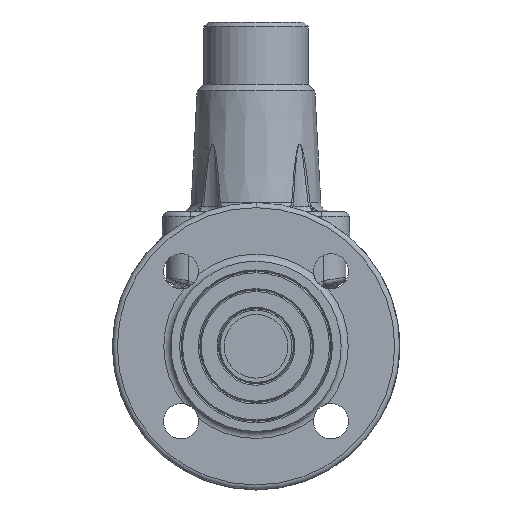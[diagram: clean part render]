
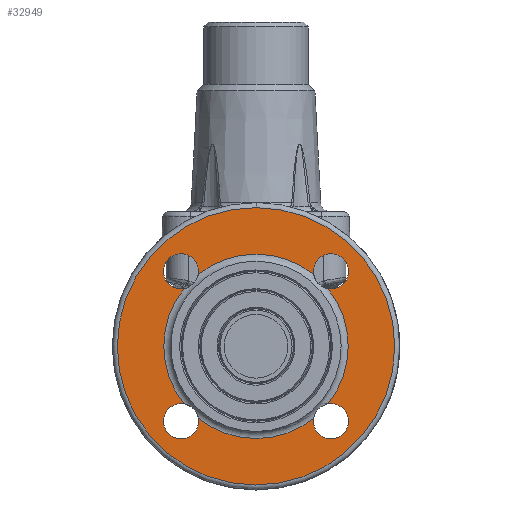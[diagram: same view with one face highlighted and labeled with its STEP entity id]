
A CAD part, left-side view. The second image highlights one B-rep face of the part: STEP entity #32949.
In plain terms, the highlighted planar face has unit normal (-1, 0, 0).
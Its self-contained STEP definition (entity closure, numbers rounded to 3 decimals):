
#32789=CARTESIAN_POINT('',(-78.,-0.343,55.499));
#32790=VERTEX_POINT('',#32789);
#32802=CARTESIAN_POINT('',(-78.,0.,55.5));
#32803=VERTEX_POINT('',#32802);
#32804=CARTESIAN_POINT('',(-78.,0.,0.));
#32805=DIRECTION('',(-1.,0.,0.));
#32806=DIRECTION('',(0.,0.,1.));
#32807=AXIS2_PLACEMENT_3D('',#32804,#32805,#32806);
#32808=CIRCLE('',#32807,55.5);
#32809=EDGE_CURVE('',#32803,#32790,#32808,.T.);
#32811=CARTESIAN_POINT('',(-78.,0.,0.));
#32812=DIRECTION('',(-1.,0.,0.));
#32813=DIRECTION('',(0.,0.,1.));
#32814=AXIS2_PLACEMENT_3D('',#32811,#32812,#32813);
#32815=CIRCLE('',#32814,55.5);
#32816=EDGE_CURVE('',#32790,#32803,#32815,.T.);
#32821=CARTESIAN_POINT('',(-78.,0.,0.));
#32822=DIRECTION('',(-1.,0.,0.));
#32823=DIRECTION('',(0.,0.,-1.));
#32824=AXIS2_PLACEMENT_3D('',#32821,#32822,#32823);
#32825=PLANE('',#32824);
#32826=ORIENTED_EDGE('',*,*,#32809,.T.);
#32827=ORIENTED_EDGE('',*,*,#32816,.T.);
#32828=EDGE_LOOP('',(#32826,#32827));
#32829=FACE_BOUND('',#32828,.T.);
#32830=CARTESIAN_POINT('',(-78.,30.,-22.95));
#32831=VERTEX_POINT('',#32830);
#32832=CARTESIAN_POINT('',(-78.,23.051,-28.813));
#32833=VERTEX_POINT('',#32832);
#32834=CARTESIAN_POINT('',(-78.,30.,-30.));
#32835=DIRECTION('',(-1.,0.,0.));
#32836=DIRECTION('',(0.,0.,1.));
#32837=AXIS2_PLACEMENT_3D('',#32834,#32835,#32836);
#32838=CIRCLE('',#32837,7.05);
#32839=EDGE_CURVE('',#32831,#32833,#32838,.T.);
#32840=ORIENTED_EDGE('',*,*,#32839,.F.);
#32841=CARTESIAN_POINT('',(-78.,28.814,-23.051));
#32842=VERTEX_POINT('',#32841);
#32843=CARTESIAN_POINT('',(-78.,30.,-30.));
#32844=DIRECTION('',(-1.,0.,0.));
#32845=DIRECTION('',(0.,0.,1.));
#32846=AXIS2_PLACEMENT_3D('',#32843,#32844,#32845);
#32847=CIRCLE('',#32846,7.05);
#32848=EDGE_CURVE('',#32842,#32831,#32847,.T.);
#32849=ORIENTED_EDGE('',*,*,#32848,.F.);
#32850=CARTESIAN_POINT('',(-78.,28.814,23.051));
#32851=VERTEX_POINT('',#32850);
#32852=CARTESIAN_POINT('',(-78.,0.,0.));
#32853=DIRECTION('',(1.,-0.,-0.));
#32854=DIRECTION('',(0.,0.,1.));
#32855=AXIS2_PLACEMENT_3D('',#32852,#32853,#32854);
#32856=CIRCLE('',#32855,36.899);
#32857=EDGE_CURVE('',#32842,#32851,#32856,.T.);
#32858=ORIENTED_EDGE('',*,*,#32857,.T.);
#32859=CARTESIAN_POINT('',(-78.,30.,37.05));
#32860=VERTEX_POINT('',#32859);
#32861=CARTESIAN_POINT('',(-78.,30.,30.));
#32862=DIRECTION('',(-1.,0.,0.));
#32863=DIRECTION('',(0.,0.,1.));
#32864=AXIS2_PLACEMENT_3D('',#32861,#32862,#32863);
#32865=CIRCLE('',#32864,7.05);
#32866=EDGE_CURVE('',#32860,#32851,#32865,.T.);
#32867=ORIENTED_EDGE('',*,*,#32866,.F.);
#32868=CARTESIAN_POINT('',(-78.,23.051,28.813));
#32869=VERTEX_POINT('',#32868);
#32870=CARTESIAN_POINT('',(-78.,30.,30.));
#32871=DIRECTION('',(-1.,0.,0.));
#32872=DIRECTION('',(0.,0.,1.));
#32873=AXIS2_PLACEMENT_3D('',#32870,#32871,#32872);
#32874=CIRCLE('',#32873,7.05);
#32875=EDGE_CURVE('',#32869,#32860,#32874,.T.);
#32876=ORIENTED_EDGE('',*,*,#32875,.F.);
#32877=CARTESIAN_POINT('',(-78.,-23.05,28.813));
#32878=VERTEX_POINT('',#32877);
#32879=CARTESIAN_POINT('',(-78.,0.,0.));
#32880=DIRECTION('',(1.,-0.,-0.));
#32881=DIRECTION('',(0.,0.,1.));
#32882=AXIS2_PLACEMENT_3D('',#32879,#32880,#32881);
#32883=CIRCLE('',#32882,36.899);
#32884=EDGE_CURVE('',#32869,#32878,#32883,.T.);
#32885=ORIENTED_EDGE('',*,*,#32884,.T.);
#32886=CARTESIAN_POINT('',(-78.,-30.,37.05));
#32887=VERTEX_POINT('',#32886);
#32888=CARTESIAN_POINT('',(-78.,-30.,30.));
#32889=DIRECTION('',(-1.,0.,0.));
#32890=DIRECTION('',(0.,0.,1.));
#32891=AXIS2_PLACEMENT_3D('',#32888,#32889,#32890);
#32892=CIRCLE('',#32891,7.05);
#32893=EDGE_CURVE('',#32887,#32878,#32892,.T.);
#32894=ORIENTED_EDGE('',*,*,#32893,.F.);
#32895=CARTESIAN_POINT('',(-78.,-28.813,23.051));
#32896=VERTEX_POINT('',#32895);
#32897=CARTESIAN_POINT('',(-78.,-30.,30.));
#32898=DIRECTION('',(-1.,0.,0.));
#32899=DIRECTION('',(0.,0.,1.));
#32900=AXIS2_PLACEMENT_3D('',#32897,#32898,#32899);
#32901=CIRCLE('',#32900,7.05);
#32902=EDGE_CURVE('',#32896,#32887,#32901,.T.);
#32903=ORIENTED_EDGE('',*,*,#32902,.F.);
#32904=CARTESIAN_POINT('',(-78.,-28.813,-23.051));
#32905=VERTEX_POINT('',#32904);
#32906=CARTESIAN_POINT('',(-78.,0.,0.));
#32907=DIRECTION('',(1.,-0.,-0.));
#32908=DIRECTION('',(0.,0.,1.));
#32909=AXIS2_PLACEMENT_3D('',#32906,#32907,#32908);
#32910=CIRCLE('',#32909,36.899);
#32911=EDGE_CURVE('',#32896,#32905,#32910,.T.);
#32912=ORIENTED_EDGE('',*,*,#32911,.T.);
#32913=CARTESIAN_POINT('',(-78.,-30.,-22.95));
#32914=VERTEX_POINT('',#32913);
#32915=CARTESIAN_POINT('',(-78.,-30.,-30.));
#32916=DIRECTION('',(-1.,0.,0.));
#32917=DIRECTION('',(0.,0.,1.));
#32918=AXIS2_PLACEMENT_3D('',#32915,#32916,#32917);
#32919=CIRCLE('',#32918,7.05);
#32920=EDGE_CURVE('',#32914,#32905,#32919,.T.);
#32921=ORIENTED_EDGE('',*,*,#32920,.F.);
#32922=CARTESIAN_POINT('',(-78.,-23.05,-28.813));
#32923=VERTEX_POINT('',#32922);
#32924=CARTESIAN_POINT('',(-78.,-30.,-30.));
#32925=DIRECTION('',(-1.,0.,0.));
#32926=DIRECTION('',(0.,0.,1.));
#32927=AXIS2_PLACEMENT_3D('',#32924,#32925,#32926);
#32928=CIRCLE('',#32927,7.05);
#32929=EDGE_CURVE('',#32923,#32914,#32928,.T.);
#32930=ORIENTED_EDGE('',*,*,#32929,.F.);
#32931=CARTESIAN_POINT('',(-78.,-0.377,-36.897));
#32932=VERTEX_POINT('',#32931);
#32933=CARTESIAN_POINT('',(-78.,0.,0.));
#32934=DIRECTION('',(1.,-0.,-0.));
#32935=DIRECTION('',(0.,0.,1.));
#32936=AXIS2_PLACEMENT_3D('',#32933,#32934,#32935);
#32937=CIRCLE('',#32936,36.899);
#32938=EDGE_CURVE('',#32923,#32932,#32937,.T.);
#32939=ORIENTED_EDGE('',*,*,#32938,.T.);
#32940=CARTESIAN_POINT('',(-78.,0.,0.));
#32941=DIRECTION('',(1.,-0.,-0.));
#32942=DIRECTION('',(0.,0.,1.));
#32943=AXIS2_PLACEMENT_3D('',#32940,#32941,#32942);
#32944=CIRCLE('',#32943,36.899);
#32945=EDGE_CURVE('',#32932,#32833,#32944,.T.);
#32946=ORIENTED_EDGE('',*,*,#32945,.T.);
#32947=EDGE_LOOP('',(#32840,#32849,#32858,#32867,#32876,#32885,#32894,#32903,#32912,#32921,#32930,#32939,#32946));
#32948=FACE_BOUND('',#32947,.T.);
#32949=ADVANCED_FACE('',(#32829,#32948),#32825,.T.);
